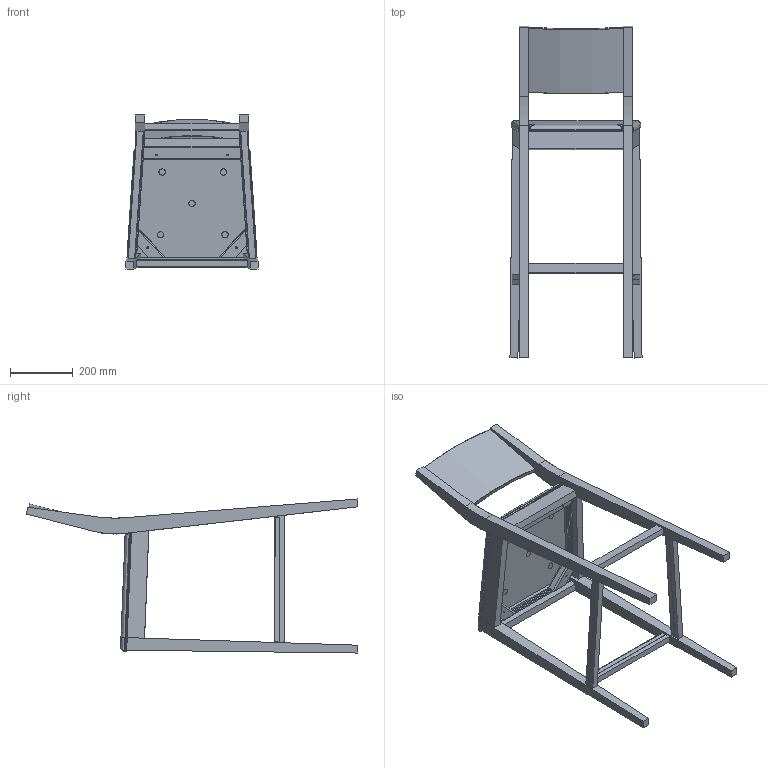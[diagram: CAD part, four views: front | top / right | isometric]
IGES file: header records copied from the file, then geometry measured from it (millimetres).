
Start section: SolidWorks IGES file using analytic representation for surfaces
Global section: file name: D:\DESENHOSSOLIDWORKS\Desenhos Tecnicos\Fabrica2\Cadeiras\Técnicos\MARTY\BANCO\Modelos Iges\M468.IGS; native system: SolidWorks 2013; preprocessor: SolidWorks 2013; author: emanuel; date: 130530.120746; units: millimetre
Bounding box: 420 x 1055.26 x 490 mm (x, y, z)
Surface area: 1984945.7 mm2 (no closed solid volume)
Topology: 0 solids, 0 shells, 693 faces, 7118 edges, 7116 vertices
Faces by surface type: bspline 448, revolution 245
